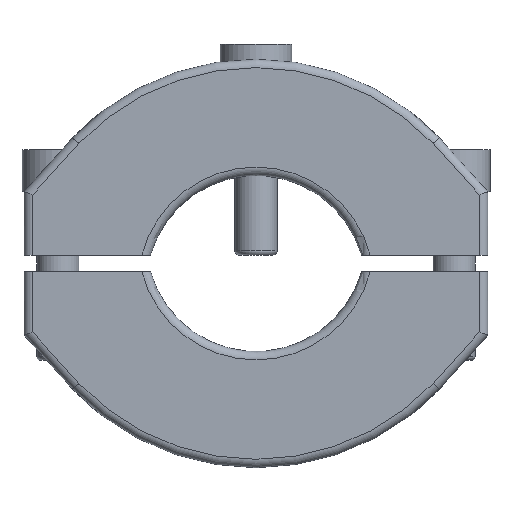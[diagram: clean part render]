
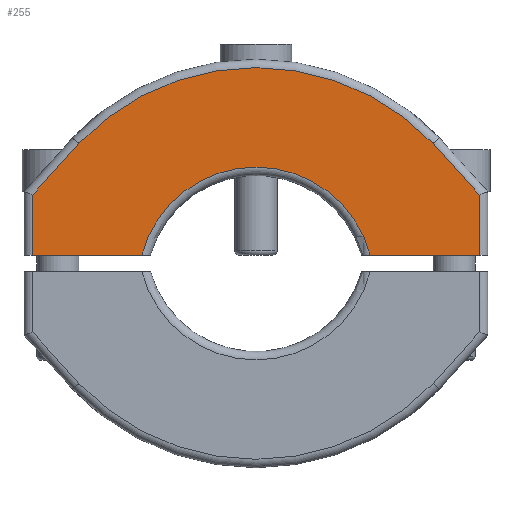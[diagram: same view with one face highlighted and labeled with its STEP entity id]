
A CAD part, front view. The second image highlights one B-rep face of the part: STEP entity #255.
In plain terms, the highlighted planar face has unit normal (0, -1, 0).
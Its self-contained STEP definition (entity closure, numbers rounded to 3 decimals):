
#255 = ADVANCED_FACE( '', ( #423 ), #424, .F. );
#423 = FACE_OUTER_BOUND( '', #533, .T. );
#424 = PLANE( '', #534 );
#533 = EDGE_LOOP( '', ( #819, #820, #821, #822, #823, #824, #825, #826 ) );
#534 = AXIS2_PLACEMENT_3D( '', #827, #828, #829 );
#819 = ORIENTED_EDGE( '', *, *, #959, .T. );
#820 = ORIENTED_EDGE( '', *, *, #942, .T. );
#821 = ORIENTED_EDGE( '', *, *, #1010, .T. );
#822 = ORIENTED_EDGE( '', *, *, #990, .F. );
#823 = ORIENTED_EDGE( '', *, *, #993, .T. );
#824 = ORIENTED_EDGE( '', *, *, #1003, .F. );
#825 = ORIENTED_EDGE( '', *, *, #1013, .T. );
#826 = ORIENTED_EDGE( '', *, *, #956, .T. );
#827 = CARTESIAN_POINT( '', ( 0., -9., -6.776 ) );
#828 = DIRECTION( '', ( 0., 1., 0. ) );
#829 = DIRECTION( '', ( 0., 0., 1. ) );
#942 = EDGE_CURVE( '', #1067, #1064, #1068, .F. );
#956 = EDGE_CURVE( '', #1089, #1087, #1090, .F. );
#959 = EDGE_CURVE( '', #1087, #1067, #1094, .F. );
#990 = EDGE_CURVE( '', #1145, #1147, #1148, .T. );
#993 = EDGE_CURVE( '', #1145, #1150, #1153, .T. );
#1003 = EDGE_CURVE( '', #1166, #1150, #1168, .T. );
#1010 = EDGE_CURVE( '', #1064, #1147, #1177, .F. );
#1013 = EDGE_CURVE( '', #1166, #1089, #1180, .F. );
#1064 = VERTEX_POINT( '', #1264 );
#1067 = VERTEX_POINT( '', #1267 );
#1068 = LINE( '', #1268, #1269 );
#1087 = VERTEX_POINT( '', #1300 );
#1089 = VERTEX_POINT( '', #1311 );
#1090 = LINE( '', #1312, #1313 );
#1094 = CIRCLE( '', #1318, 29. );
#1145 = VERTEX_POINT( '', #1401 );
#1147 = VERTEX_POINT( '', #1412 );
#1148 = LINE( '', #1413, #1414 );
#1150 = VERTEX_POINT( '', #1416 );
#1153 = CIRCLE( '', #1426, 14. );
#1166 = VERTEX_POINT( '', #1455 );
#1168 = LINE( '', #1457, #1458 );
#1177 = LINE( '', #1472, #1473 );
#1180 = LINE( '', #1477, #1478 );
#1264 = CARTESIAN_POINT( '', ( -26.5, -9., 7.116 ) );
#1267 = CARTESIAN_POINT( '', ( -21.011, -9., 13.213 ) );
#1268 = CARTESIAN_POINT( '', ( -20.992, -9., 13.233 ) );
#1269 = VECTOR( '', #1493, 1000. );
#1300 = CARTESIAN_POINT( '', ( 21.001, -9., 13.223 ) );
#1311 = CARTESIAN_POINT( '', ( 26.5, -9., 7.116 ) );
#1312 = CARTESIAN_POINT( '', ( 20.992, -9., 13.233 ) );
#1313 = VECTOR( '', #1513, 1000. );
#1318 = AXIS2_PLACEMENT_3D( '', #1518, #1519, #1520 );
#1401 = CARTESIAN_POINT( '', ( -13.537, -9., 0. ) );
#1412 = CARTESIAN_POINT( '', ( -26.5, -9., 0. ) );
#1413 = CARTESIAN_POINT( '', ( -27.5, -9., 0. ) );
#1414 = VECTOR( '', #1570, 1000. );
#1416 = CARTESIAN_POINT( '', ( 13.537, -9., 0. ) );
#1426 = AXIS2_PLACEMENT_3D( '', #1574, #1575, #1576 );
#1455 = CARTESIAN_POINT( '', ( 26.5, -9., 0. ) );
#1457 = CARTESIAN_POINT( '', ( 12.5, -9., 0. ) );
#1458 = VECTOR( '', #1594, 1000. );
#1472 = CARTESIAN_POINT( '', ( -26.5, -9., 0. ) );
#1473 = VECTOR( '', #1603, 1000. );
#1477 = CARTESIAN_POINT( '', ( 26.5, -9., 7.5 ) );
#1478 = VECTOR( '', #1608, 1000. );
#1493 = DIRECTION( '', ( 0.669, 0., 0.743 ) );
#1513 = DIRECTION( '', ( 0.669, 0., -0.743 ) );
#1518 = CARTESIAN_POINT( '', ( 0., -9., -6.776 ) );
#1519 = DIRECTION( '', ( 0., 1., 0. ) );
#1520 = DIRECTION( '', ( 0., 0., 1. ) );
#1570 = DIRECTION( '', ( -1., 0., 0. ) );
#1574 = CARTESIAN_POINT( '', ( 0., -9., -3.571 ) );
#1575 = DIRECTION( '', ( 0., 1., 0. ) );
#1576 = DIRECTION( '', ( 0., 0., 1. ) );
#1594 = DIRECTION( '', ( -1., 0., 0. ) );
#1603 = DIRECTION( '', ( 0., 0., 1. ) );
#1608 = DIRECTION( '', ( 0., 0., -1. ) );
